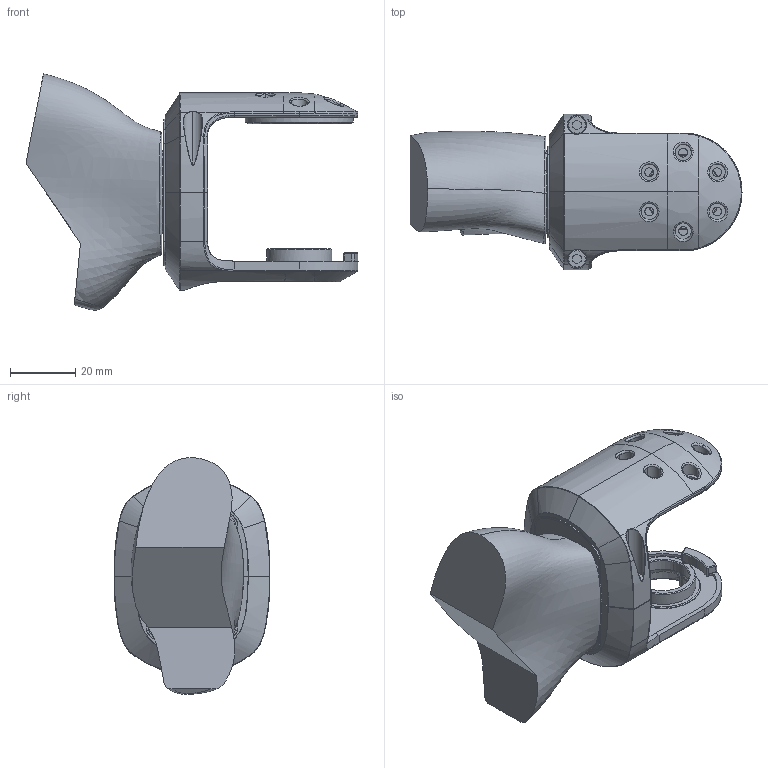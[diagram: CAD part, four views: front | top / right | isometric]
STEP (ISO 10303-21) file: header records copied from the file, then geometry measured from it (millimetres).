
FILE_DESCRIPTION (( 'STEP AP203' ), '1' );
FILE_NAME ('G1进阶版末端装配图.STEP', '2024-12-04T07:01:34', ( 'Opium' ), ( 'YC.TEC' ), 'SwSTEP 2.0', 'SolidWorks 2023', '' );
FILE_SCHEMA (( 'CONFIG_CONTROL_DESIGN' ));
Length unit declared in the file: millimetre
Products named in the file (5): G1进阶版末端装配图; G1进阶版末端抱箍一_默认; G1进阶版末端抱箍二_默认; M3螺钉长度10mm_默认; G1进阶版末端执行器(示意)_默认
Assembly tree (5 placements, depth 2):
  G1进阶版末端装配图
    G1进阶版末端抱箍一_默认
    G1进阶版末端抱箍二_默认
    G1进阶版末端执行器(示意)_默认
    M3螺钉长度10mm_默认  x2
Bounding box: 101.6 x 47.73 x 72.38 mm (x, y, z)
Volume: 102003.9 mm3; surface area: 30964.9 mm2
Topology: 6 solids, 8 shells, 825 faces, 2088 edges, 1271 vertices
Faces by surface type: bspline 342, cylinder 251, plane 155, torus 44, cone 33
Full cylindrical faces by diameter (mm): 3 x2, 5.5 x2
Entity records: 65205 total; most frequent: CARTESIAN_POINT 49740, ORIENTED_EDGE 4048, EDGE_CURVE 2024, DIRECTION 1801, VERTEX_POINT 1251, B_SPLINE_CURVE_WITH_KNOTS 1136, EDGE_LOOP 857, FACE_OUTER_BOUND 815
